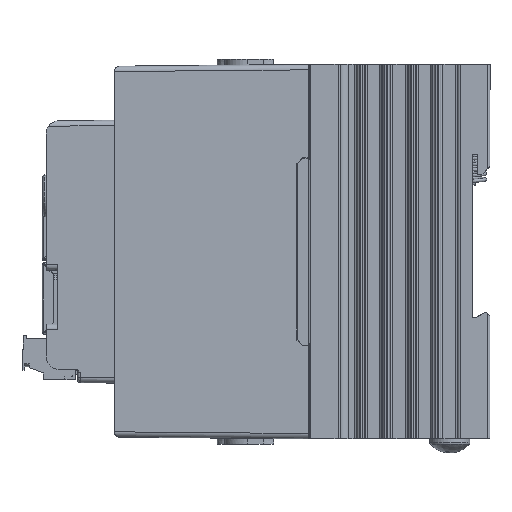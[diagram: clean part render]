
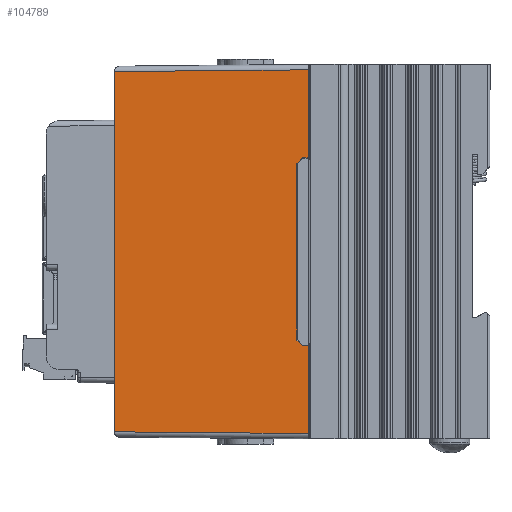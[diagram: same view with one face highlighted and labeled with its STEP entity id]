
A CAD part, left-side view. The second image highlights one B-rep face of the part: STEP entity #104789.
In plain terms, the highlighted planar face has unit normal (-1, 0.009, 0) as drawn and (1, 0, 0.009) by its records, which use the part's own axes.
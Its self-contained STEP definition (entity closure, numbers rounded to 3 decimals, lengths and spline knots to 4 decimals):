
#11649=FACE_OUTER_BOUND('',#17442,.T.);
#17442=EDGE_LOOP('',(#92822,#92823,#92824,#92825,#92826,#92827,#92828,#92829,
#92830,#92831));
#28268=LINE('',#183088,#39845);
#28398=LINE('',#183873,#39975);
#28404=LINE('',#183885,#39981);
#28408=LINE('',#183891,#39985);
#28410=LINE('',#183895,#39987);
#28412=LINE('',#183899,#39989);
#28413=LINE('',#183902,#39990);
#28758=LINE('',#184660,#40335);
#28760=LINE('',#184666,#40337);
#28761=LINE('',#184667,#40338);
#39845=VECTOR('',#137747,0.3937);
#39975=VECTOR('',#138123,0.3937);
#39981=VECTOR('',#138133,0.3937);
#39985=VECTOR('',#138141,0.3937);
#39987=VECTOR('',#138145,0.3937);
#39989=VECTOR('',#138149,0.3937);
#39990=VECTOR('',#138152,0.3937);
#40335=VECTOR('',#138877,0.3937);
#40337=VECTOR('',#138885,0.3937);
#40338=VECTOR('',#138886,0.3937);
#49699=VERTEX_POINT('',#183085);
#49700=VERTEX_POINT('',#183087);
#49803=VERTEX_POINT('',#183870);
#49804=VERTEX_POINT('',#183872);
#49807=VERTEX_POINT('',#183882);
#49808=VERTEX_POINT('',#183884);
#49809=VERTEX_POINT('',#183893);
#49810=VERTEX_POINT('',#183897);
#49811=VERTEX_POINT('',#183901);
#50011=VERTEX_POINT('',#184665);
#63903=EDGE_CURVE('',#49700,#49699,#28268,.T.);
#64091=EDGE_CURVE('',#49804,#49803,#28398,.T.);
#64097=EDGE_CURVE('',#49808,#49807,#28404,.T.);
#64101=EDGE_CURVE('',#49803,#49808,#28408,.T.);
#64103=EDGE_CURVE('',#49807,#49809,#28410,.T.);
#64105=EDGE_CURVE('',#49809,#49810,#28412,.T.);
#64106=EDGE_CURVE('',#49811,#49804,#28413,.T.);
#64472=EDGE_CURVE('',#49811,#49699,#28758,.T.);
#64475=EDGE_CURVE('',#49810,#50011,#28760,.T.);
#64476=EDGE_CURVE('',#49700,#50011,#28761,.T.);
#92822=ORIENTED_EDGE('',*,*,#64105,.T.);
#92823=ORIENTED_EDGE('',*,*,#64475,.T.);
#92824=ORIENTED_EDGE('',*,*,#64476,.F.);
#92825=ORIENTED_EDGE('',*,*,#63903,.T.);
#92826=ORIENTED_EDGE('',*,*,#64472,.F.);
#92827=ORIENTED_EDGE('',*,*,#64106,.T.);
#92828=ORIENTED_EDGE('',*,*,#64091,.T.);
#92829=ORIENTED_EDGE('',*,*,#64101,.T.);
#92830=ORIENTED_EDGE('',*,*,#64097,.T.);
#92831=ORIENTED_EDGE('',*,*,#64103,.T.);
#99578=PLANE('',#112926);
#104789=ADVANCED_FACE('',(#11649),#99578,.T.);
#112926=AXIS2_PLACEMENT_3D('',#184664,#138883,#138884);
#137747=DIRECTION('',(0.,-1.,0.));
#138123=DIRECTION('',(-0.009,0.009,1.));
#138133=DIRECTION('',(0.,1.,0.));
#138141=DIRECTION('',(-0.006,0.71,0.704));
#138145=DIRECTION('',(0.006,0.71,-0.704));
#138149=DIRECTION('',(0.009,0.009,-1.));
#138152=DIRECTION('',(0.,1.,0.));
#138877=DIRECTION('',(-0.009,0.009,1.));
#138883=DIRECTION('center_axis',(1.,0.,
0.009));
#138884=DIRECTION('ref_axis',(0.,1.,0.));
#138885=DIRECTION('',(0.,1.,0.));
#138886=DIRECTION('',(0.009,0.009,-1.));
#183085=CARTESIAN_POINT('',(1.3842,0.0658,1.811));
#183087=CARTESIAN_POINT('',(1.3842,3.4342,1.811));
#183088=CARTESIAN_POINT('',(1.3842,0.,1.811));
#183870=CARTESIAN_POINT('',(1.3995,0.8705,0.0521));
#183872=CARTESIAN_POINT('',(1.4,0.87,0.));
#183873=CARTESIAN_POINT('',(1.3996,0.8704,0.0436));
#183882=CARTESIAN_POINT('',(1.3991,2.5762,0.105));
#183884=CARTESIAN_POINT('',(1.3991,0.9238,0.105));
#183885=CARTESIAN_POINT('',(1.3991,3.0381,0.105));
#183891=CARTESIAN_POINT('',(1.3937,1.5503,0.726));
#183893=CARTESIAN_POINT('',(1.3995,2.6295,0.0521));
#183895=CARTESIAN_POINT('',(1.4015,2.859,-0.1754));
#183897=CARTESIAN_POINT('',(1.4,2.63,0.));
#183899=CARTESIAN_POINT('',(1.4,2.63,0.0023));
#183901=CARTESIAN_POINT('',(1.4,0.05,0.));
#183902=CARTESIAN_POINT('',(1.4,0.,0.));
#184660=CARTESIAN_POINT('',(1.3999,0.0501,0.0148));
#184664=CARTESIAN_POINT('Origin',(1.4,3.5,0.));
#184665=CARTESIAN_POINT('',(1.4,3.45,0.));
#184666=CARTESIAN_POINT('',(1.4,0.,0.));
#184667=CARTESIAN_POINT('',(1.4,3.45,0.0057));
